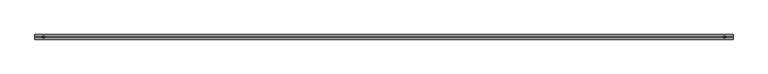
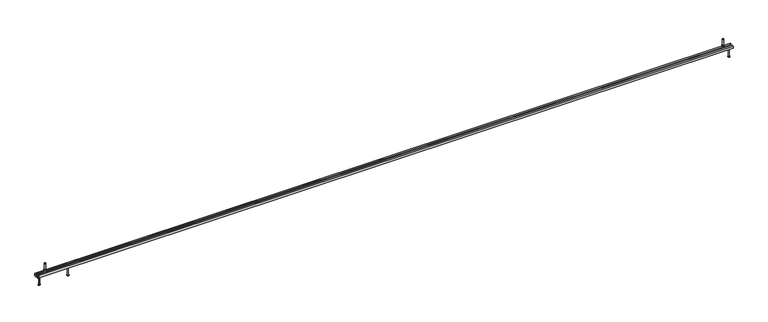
"""IFC4 building model written with IfcOpenShell, lengths in millimetres: fastener geometry, JTA-W JORDAHL® AnchorChannels : JTA-W L=6000 mm."""

from ifc_helpers import new_model, si_unit, point, frame, frame_2d, origin, place, context, project, spatial, polyline, circle_curve, trimmed, segment, composite_curve, outline, extrude, source, transform, mapped, element, save
from ifc_brep_helpers import plane_surface, cylinder_surface, revolved_surface, advanced_brep


def fastener_63425f2b(model_context):
    return source(origin(), model_context, "Body", "SolidModel", [
        advanced_brep(
        [(272.9166667, 0.0, -22.0), (286.4166667, 0.0, -22.0), (259.4166667, 0.0, -22.0), (264.4166667, 0.0, -100.0), (281.4166667, 0.0, -100.0), (272.9166667, 0.0, -100.0), (264.4166667, 0.0, -98.0), (281.4166667, 0.0, -98.0), (268.4166667, 0.0, -95.6905989), (277.4166667, 0.0, -95.6905989), (268.4166667, 0.0, -24.5), (277.4166667, 0.0, -24.5)],
        [
            (0, 1),
            (1, 2, circle_curve(frame((272.9166667, 0.0, -22.0), z_axis=(0.0, 0.0, 1.0), x_axis=(1.0, 0.0, 0.0)), 13.5)),
            (2, 0),
            (2, 1, circle_curve(frame((272.9166667, 0.0, -22.0), z_axis=(0.0, 0.0, 1.0), x_axis=(1.0, 0.0, 0.0)), 13.5)),
            (3, 4, circle_curve(frame((272.9166667, 0.0, -100.0), z_axis=(0.0, 0.0, -1.0), x_axis=(1.0, 0.0, 0.0)), 8.5)),
            (4, 5),
            (5, 3),
            (4, 3, circle_curve(frame((272.9166667, 0.0, -100.0), z_axis=(0.0, 0.0, -1.0), x_axis=(1.0, 0.0, 0.0)), 8.5)),
            (6, 7, circle_curve(frame((272.9166667, 0.0, -98.0), z_axis=(0.0, 0.0, -1.0), x_axis=(1.0, 0.0, 0.0)), 8.5)),
            (7, 4),
            (3, 6),
            (7, 6, circle_curve(frame((272.9166667, 0.0, -98.0), z_axis=(0.0, 0.0, -1.0), x_axis=(1.0, 0.0, 0.0)), 8.5)),
            (8, 9, circle_curve(frame((272.9166667, 0.0, -95.6905989), z_axis=(0.0, 0.0, -1.0), x_axis=(1.0, 0.0, 0.0)), 4.5)),
            (9, 7),
            (6, 8),
            (9, 8, circle_curve(frame((272.9166667, 0.0, -95.6905989), z_axis=(0.0, 0.0, -1.0), x_axis=(1.0, 0.0, 0.0)), 4.5)),
            (10, 11, circle_curve(frame((272.9166667, 0.0, -24.5), z_axis=(0.0, 0.0, -1.0), x_axis=(1.0, 0.0, 0.0)), 4.5)),
            (11, 9),
            (8, 10),
            (11, 10, circle_curve(frame((272.9166667, 0.0, -24.5), z_axis=(0.0, 0.0, -1.0), x_axis=(1.0, 0.0, 0.0)), 4.5)),
            (1, 11),
            (10, 2),
        ],
        [
            plane_surface(frame((272.9166667, 0.0, -22.0), z_axis=(0.0, 0.0, 1.0), x_axis=(1.0, 0.0, 0.0))),
            plane_surface(frame((272.9166667, 0.0, -100.0), z_axis=(0.0, 0.0, -1.0), x_axis=(1.0, 0.0, 0.0))),
            cylinder_surface(frame((272.9166667, 0.0, 2292.3150031), z_axis=(0.0, 0.0, 1.0), x_axis=(1.0, 0.0, 0.0)), 8.5),
            revolved_surface(polyline([(281.4166667, 0.0, -98.0), (277.4166667, 0.0, -95.6905989)]), (272.9166667, 0.0, 2292.3150031), (0.0, 0.0, 1.0)),
            cylinder_surface(frame((272.9166667, 0.0, 2292.3150031), z_axis=(0.0, 0.0, 1.0), x_axis=(1.0, 0.0, 0.0)), 4.5),
            revolved_surface(polyline([(277.4166667, 0.0, -24.5), (286.4166667, 0.0, -22.0)]), (272.9166667, 0.0, 2292.3150031), (0.0, 0.0, 1.0)),
        ],
        [
            (0, [[1, 2, 3]]),
            (0, [[-3, 4, -1]]),
            (1, [[5, 6, 7]]),
            (1, [[8, -7, -6]]),
            (2, [[9, 10, -5, 11]]),
            (2, [[12, -11, -8, -10]]),
            (3, [[13, 14, -9, 15]]),
            (3, [[16, -15, -12, -14]]),
            (4, [[17, 18, -13, 19]]),
            (4, [[20, -19, -16, -18]]),
            (5, [[-2, 21, -17, 22]]),
            (5, [[-4, -22, -20, -21]]),
        ],
    ),
        extrude(outline(polyline([(5925.0, 9.2376043), (5933.0, 4.6188022), (5933.0, -4.6188022), (5925.0, -9.2376043), (5917.0, -4.6188022), (5917.0, 4.6188022), (5925.0, 9.2376043)]), holes=[composite_curve([segment(trimmed(circle_curve(frame_2d((5925.0, 0.0)), 5.0), [point((5920.0, 0.0))], [point((5930.0, 0.0))], True, "CARTESIAN"), True, "CONTINUOUS"), segment(trimmed(circle_curve(frame_2d((5925.0, 0.0)), 5.0), [point((5930.0, 0.0))], [point((5920.0, 0.0))], True, "CARTESIAN"), True, "CONTINUOUS")], self_intersect=False)]), frame((0.0, 0.0, 17.0), z_axis=(0.0, 0.0, 1.0), x_axis=(1.0, 0.0, 0.0)), (0.0, 0.0, 1.0), 8.4),
        extrude(outline(composite_curve([segment(trimmed(circle_curve(frame_2d((5925.0, 0.0)), 10.0), [point((5915.0, 0.0))], [point((5935.0, 0.0))], False, "CARTESIAN"), True, "CONTINUOUS"), segment(trimmed(circle_curve(frame_2d((5925.0, 0.0)), 10.0), [point((5935.0, 0.0))], [point((5915.0, 0.0))], False, "CARTESIAN"), True, "CONTINUOUS")], self_intersect=False), holes=[composite_curve([segment(trimmed(circle_curve(frame_2d((5925.0, 0.0)), 5.25), [point((5919.75, 0.0))], [point((5930.25, 0.0))], True, "CARTESIAN"), True, "CONTINUOUS"), segment(trimmed(circle_curve(frame_2d((5925.0, 0.0)), 5.25), [point((5930.25, 0.0))], [point((5919.75, 0.0))], True, "CARTESIAN"), True, "CONTINUOUS")], self_intersect=False)]), frame((0.0, 0.0, 15.0), z_axis=(0.0, 0.0, 1.0), x_axis=(1.0, 0.0, 0.0)), (0.0, 0.0, 1.0), 2.0),
        extrude(outline(polyline([(75.0, 9.2376043), (83.0, 4.6188022), (83.0, -4.6188022), (75.0, -9.2376043), (67.0, -4.6188022), (67.0, 4.6188022), (75.0, 9.2376043)]), holes=[composite_curve([segment(trimmed(circle_curve(frame_2d((75.0, 0.0)), 5.0), [point((70.0, 0.0))], [point((80.0, 0.0))], True, "CARTESIAN"), True, "CONTINUOUS"), segment(trimmed(circle_curve(frame_2d((75.0, 0.0)), 5.0), [point((80.0, 0.0))], [point((70.0, 0.0))], True, "CARTESIAN"), True, "CONTINUOUS")], self_intersect=False)]), frame((0.0, 0.0, 17.0), z_axis=(0.0, 0.0, 1.0), x_axis=(1.0, 0.0, 0.0)), (0.0, 0.0, 1.0), 8.4),
        extrude(outline(composite_curve([segment(trimmed(circle_curve(frame_2d((75.0, 0.0)), 10.0), [point((65.0, 0.0))], [point((85.0, 0.0))], False, "CARTESIAN"), True, "CONTINUOUS"), segment(trimmed(circle_curve(frame_2d((75.0, 0.0)), 10.0), [point((85.0, 0.0))], [point((65.0, 0.0))], False, "CARTESIAN"), True, "CONTINUOUS")], self_intersect=False), holes=[composite_curve([segment(trimmed(circle_curve(frame_2d((75.0, 0.0)), 5.25), [point((69.75, 0.0))], [point((80.25, 0.0))], True, "CARTESIAN"), True, "CONTINUOUS"), segment(trimmed(circle_curve(frame_2d((75.0, 0.0)), 5.25), [point((80.25, 0.0))], [point((69.75, 0.0))], True, "CARTESIAN"), True, "CONTINUOUS")], self_intersect=False)]), frame((0.0, 0.0, 15.0), z_axis=(0.0, 0.0, 1.0), x_axis=(1.0, 0.0, 0.0)), (0.0, 0.0, 1.0), 2.0),
        advanced_brep(
        [(5932.0, 16.25, -3.0), (5932.0, -16.25, -3.0), (5932.0, -16.25, -11.0), (5932.0, 16.25, -11.0), (5918.0, 16.25, -3.0), (5918.0, 16.25, -11.0), (5918.0, -16.25, -11.0), (5918.0, -16.25, -3.0), (5930.0, 0.0, -3.0), (5920.0, 0.0, -3.0), (5920.0, 0.0, 77.0), (5930.0, 0.0, 77.0)],
        [
            (0, 1),
            (1, 2),
            (2, 3),
            (3, 0),
            (4, 5),
            (5, 6),
            (6, 7),
            (7, 4),
            (0, 4),
            (7, 1),
            (8, 9, circle_curve(frame((5925.0, 0.0, -3.0), z_axis=(0.0, 0.0, -1.0), x_axis=(1.0, 0.0, 0.0)), 5.0)),
            (9, 8, circle_curve(frame((5925.0, 0.0, -3.0), z_axis=(0.0, 0.0, -1.0), x_axis=(1.0, 0.0, 0.0)), 5.0)),
            (6, 2),
            (5, 3),
            (10, 11, circle_curve(frame((5925.0, 0.0, 77.0), z_axis=(0.0, 0.0, 1.0), x_axis=(1.0, 0.0, 0.0)), 5.0)),
            (11, 10, circle_curve(frame((5925.0, 0.0, 77.0), z_axis=(0.0, 0.0, 1.0), x_axis=(1.0, 0.0, 0.0)), 5.0)),
            (10, 9),
            (8, 11),
        ],
        [
            plane_surface(frame((5932.0, -16.25, -3.0), z_axis=(1.0, 0.0, 0.0), x_axis=(0.0, -1.0, 0.0))),
            plane_surface(frame((5918.0, -16.25, -3.0), z_axis=(-1.0, 0.0, 0.0), x_axis=(0.0, 1.0, 0.0))),
            plane_surface(frame((5932.0, 16.25, -3.0), z_axis=(0.0, 0.0, 1.0), x_axis=(-1.0, 0.0, 0.0))),
            plane_surface(frame((5932.0, -16.25, -3.0), z_axis=(0.0, -1.0, 0.0), x_axis=(-1.0, 0.0, 0.0))),
            plane_surface(frame((5932.0, -16.25, -11.0), z_axis=(0.0, 0.0, -1.0), x_axis=(-1.0, 0.0, 0.0))),
            plane_surface(frame((5932.0, 16.25, -11.0), z_axis=(0.0, 1.0, 0.0), x_axis=(-1.0, 0.0, 0.0))),
            plane_surface(frame((5930.0, 0.0, 77.0), z_axis=(0.0, 0.0, 1.0), x_axis=(0.0, 1.0, 0.0))),
            cylinder_surface(frame((5925.0, 0.0, -3.0), z_axis=(0.0, 0.0, 1.0), x_axis=(1.0, 0.0, 0.0)), 5.0),
        ],
        [
            (0, [[1, 2, 3, 4]]),
            (1, [[5, 6, 7, 8]]),
            (2, [[-1, 9, -8, 10], [11, 12]]),
            (3, [[-2, -10, -7, 13]]),
            (4, [[-3, -13, -6, 14]]),
            (5, [[-4, -14, -5, -9]]),
            (6, [[15, 16]]),
            (7, [[-15, 17, -11, 18]]),
            (7, [[-16, -18, -12, -17]]),
        ],
    ),
        advanced_brep(
        [(82.0, 16.25, -3.0), (82.0, -16.25, -3.0), (82.0, -16.25, -11.0), (82.0, 16.25, -11.0), (68.0, 16.25, -3.0), (68.0, 16.25, -11.0), (68.0, -16.25, -11.0), (68.0, -16.25, -3.0), (80.0, 0.0, -3.0), (70.0, 0.0, -3.0), (70.0, 0.0, 77.0), (80.0, 0.0, 77.0)],
        [
            (0, 1),
            (1, 2),
            (2, 3),
            (3, 0),
            (4, 5),
            (5, 6),
            (6, 7),
            (7, 4),
            (0, 4),
            (7, 1),
            (8, 9, circle_curve(frame((75.0, 0.0, -3.0), z_axis=(0.0, 0.0, -1.0), x_axis=(1.0, 0.0, 0.0)), 5.0)),
            (9, 8, circle_curve(frame((75.0, 0.0, -3.0), z_axis=(0.0, 0.0, -1.0), x_axis=(1.0, 0.0, 0.0)), 5.0)),
            (6, 2),
            (5, 3),
            (10, 11, circle_curve(frame((75.0, 0.0, 77.0), z_axis=(0.0, 0.0, 1.0), x_axis=(1.0, 0.0, 0.0)), 5.0)),
            (11, 10, circle_curve(frame((75.0, 0.0, 77.0), z_axis=(0.0, 0.0, 1.0), x_axis=(1.0, 0.0, 0.0)), 5.0)),
            (10, 9),
            (8, 11),
        ],
        [
            plane_surface(frame((82.0, -16.25, -3.0), z_axis=(1.0, 0.0, 0.0), x_axis=(0.0, -1.0, 0.0))),
            plane_surface(frame((68.0, -16.25, -3.0), z_axis=(-1.0, 0.0, 0.0), x_axis=(0.0, 1.0, 0.0))),
            plane_surface(frame((82.0, 16.25, -3.0), z_axis=(0.0, 0.0, 1.0), x_axis=(-1.0, 0.0, 0.0))),
            plane_surface(frame((82.0, -16.25, -3.0), z_axis=(0.0, -1.0, 0.0), x_axis=(-1.0, 0.0, 0.0))),
            plane_surface(frame((82.0, -16.25, -11.0), z_axis=(0.0, 0.0, -1.0), x_axis=(-1.0, 0.0, 0.0))),
            plane_surface(frame((82.0, 16.25, -11.0), z_axis=(0.0, 1.0, 0.0), x_axis=(-1.0, 0.0, 0.0))),
            plane_surface(frame((80.0, 0.0, 77.0), z_axis=(0.0, 0.0, 1.0), x_axis=(0.0, 1.0, 0.0))),
            cylinder_surface(frame((75.0, 0.0, -3.0), z_axis=(0.0, 0.0, 1.0), x_axis=(1.0, 0.0, 0.0)), 5.0),
        ],
        [
            (0, [[1, 2, 3, 4]]),
            (1, [[5, 6, 7, 8]]),
            (2, [[-1, 9, -8, 10], [11, 12]]),
            (3, [[-2, -10, -7, 13]]),
            (4, [[-3, -13, -6, 14]]),
            (5, [[-4, -14, -5, -9]]),
            (6, [[15, 16]]),
            (7, [[-15, 17, -11, 18]]),
            (7, [[-16, -18, -12, -17]]),
        ],
    ),
        advanced_brep(
        [(5975.0, 0.0, -22.0), (5988.5, 0.0, -22.0), (5961.5, 0.0, -22.0), (5966.5, 0.0, -100.0), (5983.5, 0.0, -100.0), (5975.0, 0.0, -100.0), (5966.5, 0.0, -98.0), (5983.5, 0.0, -98.0), (5970.5, 0.0, -95.6905989), (5979.5, 0.0, -95.6905989), (5970.5, 0.0, -24.5), (5979.5, 0.0, -24.5)],
        [
            (0, 1),
            (1, 2, circle_curve(frame((5975.0, 0.0, -22.0), z_axis=(0.0, 0.0, 1.0), x_axis=(1.0, 0.0, 0.0)), 13.5)),
            (2, 0),
            (2, 1, circle_curve(frame((5975.0, 0.0, -22.0), z_axis=(0.0, 0.0, 1.0), x_axis=(1.0, 0.0, 0.0)), 13.5)),
            (3, 4, circle_curve(frame((5975.0, 0.0, -100.0), z_axis=(0.0, 0.0, -1.0), x_axis=(1.0, 0.0, 0.0)), 8.5)),
            (4, 5),
            (5, 3),
            (4, 3, circle_curve(frame((5975.0, 0.0, -100.0), z_axis=(0.0, 0.0, -1.0), x_axis=(1.0, 0.0, 0.0)), 8.5)),
            (6, 7, circle_curve(frame((5975.0, 0.0, -98.0), z_axis=(0.0, 0.0, -1.0), x_axis=(1.0, 0.0, 0.0)), 8.5)),
            (7, 4),
            (3, 6),
            (7, 6, circle_curve(frame((5975.0, 0.0, -98.0), z_axis=(0.0, 0.0, -1.0), x_axis=(1.0, 0.0, 0.0)), 8.5)),
            (8, 9, circle_curve(frame((5975.0, 0.0, -95.6905989), z_axis=(0.0, 0.0, -1.0), x_axis=(1.0, 0.0, 0.0)), 4.5)),
            (9, 7),
            (6, 8),
            (9, 8, circle_curve(frame((5975.0, 0.0, -95.6905989), z_axis=(0.0, 0.0, -1.0), x_axis=(1.0, 0.0, 0.0)), 4.5)),
            (10, 11, circle_curve(frame((5975.0, 0.0, -24.5), z_axis=(0.0, 0.0, -1.0), x_axis=(1.0, 0.0, 0.0)), 4.5)),
            (11, 9),
            (8, 10),
            (11, 10, circle_curve(frame((5975.0, 0.0, -24.5), z_axis=(0.0, 0.0, -1.0), x_axis=(1.0, 0.0, 0.0)), 4.5)),
            (1, 11),
            (10, 2),
        ],
        [
            plane_surface(frame((5975.0, 0.0, -22.0), z_axis=(0.0, 0.0, 1.0), x_axis=(1.0, 0.0, 0.0))),
            plane_surface(frame((5975.0, 0.0, -100.0), z_axis=(0.0, 0.0, -1.0), x_axis=(1.0, 0.0, 0.0))),
            cylinder_surface(frame((5975.0, 0.0, 2292.3150031), z_axis=(0.0, 0.0, 1.0), x_axis=(1.0, 0.0, 0.0)), 8.5),
            revolved_surface(polyline([(5983.5, 0.0, -98.0), (5979.5, 0.0, -95.6905989)]), (5975.0, 0.0, 2292.3150031), (0.0, 0.0, 1.0)),
            cylinder_surface(frame((5975.0, 0.0, 2292.3150031), z_axis=(0.0, 0.0, 1.0), x_axis=(1.0, 0.0, 0.0)), 4.5),
            revolved_surface(polyline([(5979.5, 0.0, -24.5), (5988.5, 0.0, -22.0)]), (5975.0, 0.0, 2292.3150031), (0.0, 0.0, 1.0)),
        ],
        [
            (0, [[1, 2, 3]]),
            (0, [[-3, 4, -1]]),
            (1, [[5, 6, 7]]),
            (1, [[8, -7, -6]]),
            (2, [[9, 10, -5, 11]]),
            (2, [[12, -11, -8, -10]]),
            (3, [[13, 14, -9, 15]]),
            (3, [[16, -15, -12, -14]]),
            (4, [[17, 18, -13, 19]]),
            (4, [[20, -19, -16, -18]]),
            (5, [[-2, 21, -17, 22]]),
            (5, [[-4, -22, -20, -21]]),
        ],
    ),
        advanced_brep(
        [(25.0, 0.0, -22.0), (38.5, 0.0, -22.0), (11.5, 0.0, -22.0), (16.5, 0.0, -100.0), (33.5, 0.0, -100.0), (25.0, 0.0, -100.0), (16.5, 0.0, -98.0), (33.5, 0.0, -98.0), (20.5, 0.0, -95.6905989), (29.5, 0.0, -95.6905989), (20.5, 0.0, -24.5), (29.5, 0.0, -24.5)],
        [
            (0, 1),
            (1, 2, circle_curve(frame((25.0, 0.0, -22.0), z_axis=(0.0, 0.0, 1.0), x_axis=(1.0, 0.0, 0.0)), 13.5)),
            (2, 0),
            (2, 1, circle_curve(frame((25.0, 0.0, -22.0), z_axis=(0.0, 0.0, 1.0), x_axis=(1.0, 0.0, 0.0)), 13.5)),
            (3, 4, circle_curve(frame((25.0, 0.0, -100.0), z_axis=(0.0, 0.0, -1.0), x_axis=(1.0, 0.0, 0.0)), 8.5)),
            (4, 5),
            (5, 3),
            (4, 3, circle_curve(frame((25.0, 0.0, -100.0), z_axis=(0.0, 0.0, -1.0), x_axis=(1.0, 0.0, 0.0)), 8.5)),
            (6, 7, circle_curve(frame((25.0, 0.0, -98.0), z_axis=(0.0, 0.0, -1.0), x_axis=(1.0, 0.0, 0.0)), 8.5)),
            (7, 4),
            (3, 6),
            (7, 6, circle_curve(frame((25.0, 0.0, -98.0), z_axis=(0.0, 0.0, -1.0), x_axis=(1.0, 0.0, 0.0)), 8.5)),
            (8, 9, circle_curve(frame((25.0, 0.0, -95.6905989), z_axis=(0.0, 0.0, -1.0), x_axis=(1.0, 0.0, 0.0)), 4.5)),
            (9, 7),
            (6, 8),
            (9, 8, circle_curve(frame((25.0, 0.0, -95.6905989), z_axis=(0.0, 0.0, -1.0), x_axis=(1.0, 0.0, 0.0)), 4.5)),
            (10, 11, circle_curve(frame((25.0, 0.0, -24.5), z_axis=(0.0, 0.0, -1.0), x_axis=(1.0, 0.0, 0.0)), 4.5)),
            (11, 9),
            (8, 10),
            (11, 10, circle_curve(frame((25.0, 0.0, -24.5), z_axis=(0.0, 0.0, -1.0), x_axis=(1.0, 0.0, 0.0)), 4.5)),
            (1, 11),
            (10, 2),
        ],
        [
            plane_surface(frame((25.0, 0.0, -22.0), z_axis=(0.0, 0.0, 1.0), x_axis=(1.0, 0.0, 0.0))),
            plane_surface(frame((25.0, 0.0, -100.0), z_axis=(0.0, 0.0, -1.0), x_axis=(1.0, 0.0, 0.0))),
            cylinder_surface(frame((25.0, 0.0, 2292.3150031), z_axis=(0.0, 0.0, 1.0), x_axis=(1.0, 0.0, 0.0)), 8.5),
            revolved_surface(polyline([(33.5, 0.0, -98.0), (29.5, 0.0, -95.6905989)]), (25.0, 0.0, 2292.3150031), (0.0, 0.0, 1.0)),
            cylinder_surface(frame((25.0, 0.0, 2292.3150031), z_axis=(0.0, 0.0, 1.0), x_axis=(1.0, 0.0, 0.0)), 4.5),
            revolved_surface(polyline([(29.5, 0.0, -24.5), (38.5, 0.0, -22.0)]), (25.0, 0.0, 2292.3150031), (0.0, 0.0, 1.0)),
        ],
        [
            (0, [[1, 2, 3]]),
            (0, [[-3, 4, -1]]),
            (1, [[5, 6, 7]]),
            (1, [[8, -7, -6]]),
            (2, [[9, 10, -5, 11]]),
            (2, [[12, -11, -8, -10]]),
            (3, [[13, 14, -9, 15]]),
            (3, [[16, -15, -12, -14]]),
            (4, [[17, 18, -13, 19]]),
            (4, [[20, -19, -16, -18]]),
            (5, [[-2, 21, -17, 22]]),
            (5, [[-4, -22, -20, -21]]),
        ],
    ),
        extrude(outline(polyline([(20.0, 0.0), (20.0, -22.0), (-20.0, -22.0), (-20.0, 0.0), (-9.0, 0.0), (-9.0, -3.0), (-17.5, -3.0), (-17.5, -19.5), (17.5, -19.5), (17.5, -3.0), (9.0, -3.0), (9.0, 0.0), (20.0, 0.0)])), frame((0.0, 0.0, 0.0), z_axis=(1.0, 0.0, 0.0), x_axis=(0.0, 1.0, 0.0)), (0.0, 0.0, 1.0), 6000.0),
    ])


if __name__ == "__main__":
    model = new_model("IFC4")
    model_context = context("Model", 3, world=origin())
    ifc_project = project(units=[si_unit("LENGTHUNIT", "METRE", prefix="MILLI")], contexts=[model_context])
    site = spatial("IfcSite", under=ifc_project)
    building = spatial("IfcBuilding", under=site)
    placement = place(None, origin())
    fastener_shape = fastener_63425f2b(model_context)
    element("IfcFastener", 1, ObjectType="JTA-W JORDAHL® AnchorChannels : JTA-W L=6000 mm", at=placement, inside=building, context=model_context, shape_type="MappedRepresentation", body=[
        mapped(fastener_shape, transform((0.0, 0.0, 0.0), x_axis=(1.0, 0.0, 0.0), y_axis=(0.0, 1.0, 0.0), z_axis=(0.0, 0.0, 1.0))),
    ])
    save(model, "model.ifc")
